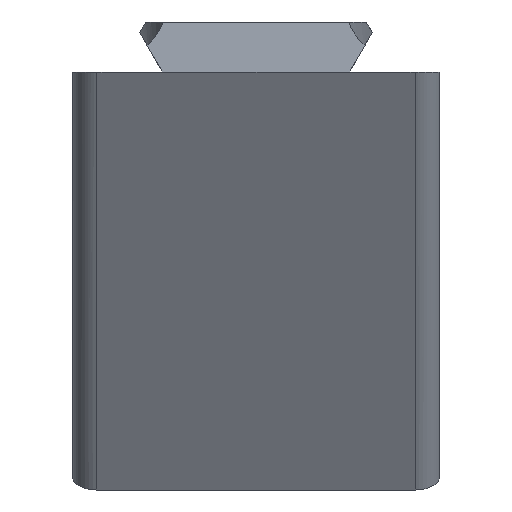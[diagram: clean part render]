
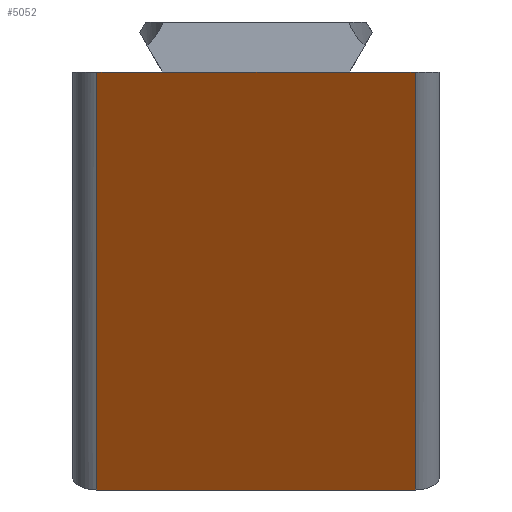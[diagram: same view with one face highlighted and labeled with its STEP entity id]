
A CAD part, left-side view. The second image highlights one B-rep face of the part: STEP entity #5052.
In plain terms, the highlighted planar face has unit normal (-0.839, 0, -0.545).
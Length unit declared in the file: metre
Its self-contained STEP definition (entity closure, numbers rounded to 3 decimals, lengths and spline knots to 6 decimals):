
#804=ORIENTED_EDGE('',*,*,#2084,.T.);
#805=ORIENTED_EDGE('',*,*,#2327,.T.);
#806=ORIENTED_EDGE('',*,*,#2037,.F.);
#807=ORIENTED_EDGE('',*,*,#2328,.T.);
#808=ORIENTED_EDGE('',*,*,#2102,.T.);
#809=ORIENTED_EDGE('',*,*,#2322,.T.);
#2037=EDGE_CURVE('',#2815,#2816,#3333,.T.);
#2084=EDGE_CURVE('',#2863,#2862,#3357,.T.);
#2102=EDGE_CURVE('',#2881,#2880,#3368,.T.);
#2322=EDGE_CURVE('',#2880,#2863,#3460,.T.);
#2327=EDGE_CURVE('',#2862,#2816,#3461,.T.);
#2328=EDGE_CURVE('',#2815,#2881,#3462,.F.);
#2815=VERTEX_POINT('',#6695);
#2816=VERTEX_POINT('',#6697);
#2862=VERTEX_POINT('',#6793);
#2863=VERTEX_POINT('',#6795);
#2880=VERTEX_POINT('',#6829);
#2881=VERTEX_POINT('',#6831);
#3333=LINE('',#6696,#3800);
#3357=LINE('',#6794,#3824);
#3368=LINE('',#6830,#3835);
#3460=LINE('',#7457,#3927);
#3461=LINE('',#7468,#3928);
#3462=LINE('',#7469,#3929);
#3800=VECTOR('',#5637,1.);
#3824=VECTOR('',#5715,1.);
#3835=VECTOR('',#5740,1.);
#3927=VECTOR('',#5924,1.);
#3928=VECTOR('',#5941,1.);
#3929=VECTOR('',#5942,1.);
#4306=EDGE_LOOP('',(#804,#805,#806,#807,#808,#809));
#4623=FACE_BOUND('',#4306,.T.);
#4914=PLANE('',#5418);
#5052=ADVANCED_FACE('',(#4623),#4914,.F.);
#5418=AXIS2_PLACEMENT_3D('',#7467,#5939,#5940);
#5637=DIRECTION('',(0.,1.,0.));
#5715=DIRECTION('',(0.,1.,0.));
#5740=DIRECTION('',(0.,1.,0.));
#5924=DIRECTION('',(0.,1.,0.));
#5939=DIRECTION('',(0.839,0.,0.545));
#5940=DIRECTION('',(0.545,0.,-0.839));
#5941=DIRECTION('',(0.545,0.,-0.839));
#5942=DIRECTION('',(0.545,0.,-0.839));
#6695=CARTESIAN_POINT('',(0.022176,-0.013,-0.034148));
#6696=CARTESIAN_POINT('',(0.022176,-0.015,-0.034148));
#6697=CARTESIAN_POINT('',(0.022176,0.013,-0.034148));
#6793=CARTESIAN_POINT('',(0.,0.013,0.));
#6794=CARTESIAN_POINT('',(0.,-0.015,0.));
#6795=CARTESIAN_POINT('',(0.,0.007695,0.));
#6829=CARTESIAN_POINT('',(0.,-0.007695,0.));
#6830=CARTESIAN_POINT('',(0.,-0.015,0.));
#6831=CARTESIAN_POINT('',(0.,-0.013,0.));
#7457=CARTESIAN_POINT('',(0.,0.,0.));
#7467=CARTESIAN_POINT('',(0.011088,-0.015,-0.017074));
#7468=CARTESIAN_POINT('',(0.011088,0.013,-0.017074));
#7469=CARTESIAN_POINT('',(0.,-0.013,0.));
